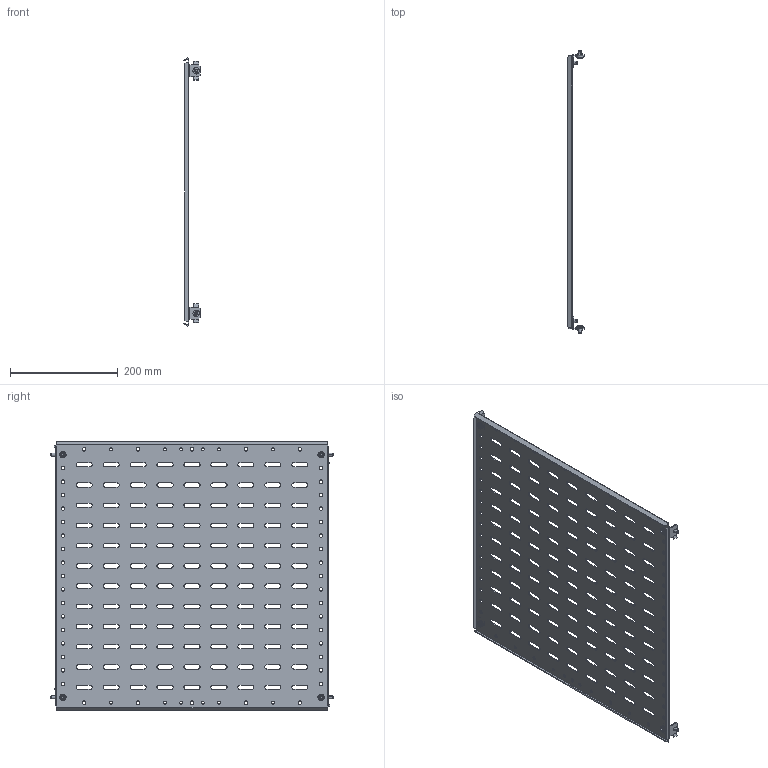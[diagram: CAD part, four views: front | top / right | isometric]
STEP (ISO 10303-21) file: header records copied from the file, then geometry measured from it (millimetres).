
FILE_DESCRIPTION (( 'STEP AP214' ), '1' );
FILE_NAME ('FO-00-SWF-050-060 Ïåðåãîðîäêà ñåêöèîíèðîâàíèÿ çàäíÿÿ 500õ600 ìì.STEP', '2025-08-12T08:54:35', ( '' ), ( '' ), 'SwSTEP 2.0', 'SolidWorks 2023', '' );
FILE_SCHEMA (( 'AUTOMOTIVE_DESIGN' ));
Length unit declared in the file: millimetre
Products named in the file (1): FO-00-SWF-050-060 Перегородка секционирования задняя 500х600 мм
Bounding box: 30.52 x 524 x 497.66 mm (x, y, z)
Volume: 372505.6 mm3; surface area: 504515.9 mm2
Topology: 1 solids, 5 shells, 1044 faces, 2974 edges, 1960 vertices
Faces by surface type: cylinder 612, plane 376, torus 24, cone 24, sphere 8
Entity records: 35213 total; most frequent: CARTESIAN_POINT 6247, DIRECTION 6236, ORIENTED_EDGE 5948, EDGE_CURVE 2974, AXIS2_PLACEMENT_3D 2285, VERTEX_POINT 1960, VECTOR 1666, LINE 1666
